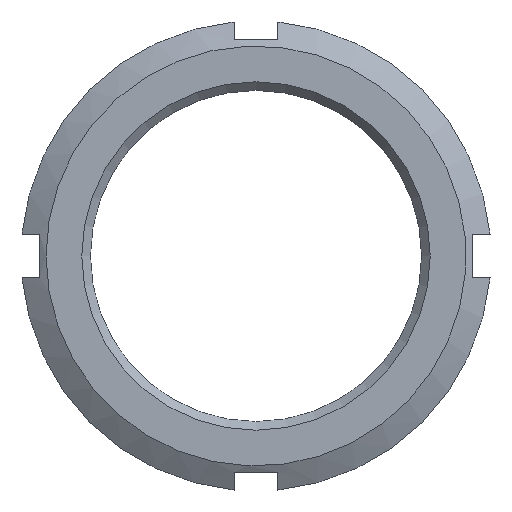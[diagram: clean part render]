
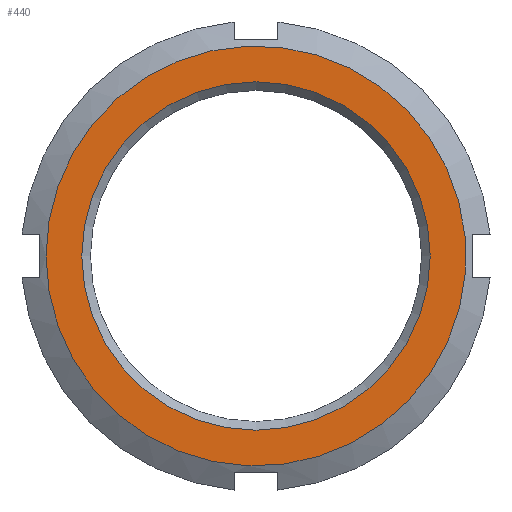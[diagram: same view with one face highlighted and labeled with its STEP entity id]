
A CAD part, left-side view. The second image highlights one B-rep face of the part: STEP entity #440.
In plain terms, the highlighted planar face has unit normal (-1, 0, 0).
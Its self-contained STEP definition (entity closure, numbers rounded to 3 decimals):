
#95=PLANE('',#471);
#116=FACE_BOUND('',#151,.T.);
#122=FACE_OUTER_BOUND('',#150,.T.);
#150=EDGE_LOOP('',(#309));
#151=EDGE_LOOP('',(#310));
#179=CIRCLE('',#468,27.792);
#181=CIRCLE('',#472,33.5);
#196=VERTEX_POINT('',#629);
#198=VERTEX_POINT('',#635);
#241=EDGE_CURVE('',#196,#196,#179,.T.);
#243=EDGE_CURVE('',#198,#198,#181,.T.);
#309=ORIENTED_EDGE('',*,*,#243,.F.);
#310=ORIENTED_EDGE('',*,*,#241,.F.);
#440=ADVANCED_FACE('',(#122,#116),#95,.T.);
#468=AXIS2_PLACEMENT_3D('',#630,#515,#516);
#471=AXIS2_PLACEMENT_3D('',#634,#521,#522);
#472=AXIS2_PLACEMENT_3D('',#636,#523,#524);
#515=DIRECTION('center_axis',(-1.,0.,0.));
#516=DIRECTION('ref_axis',(0.,0.,-1.));
#521=DIRECTION('center_axis',(-1.,0.,0.));
#522=DIRECTION('ref_axis',(0.,0.,1.));
#523=DIRECTION('center_axis',(1.,0.,0.));
#524=DIRECTION('ref_axis',(0.,-1.,0.));
#629=CARTESIAN_POINT('',(0.,0.,27.792));
#630=CARTESIAN_POINT('Origin',(0.,0.,0.));
#634=CARTESIAN_POINT('Origin',(0.,18.75,0.));
#635=CARTESIAN_POINT('',(0.,33.5,0.));
#636=CARTESIAN_POINT('Origin',(0.,0.,0.));
